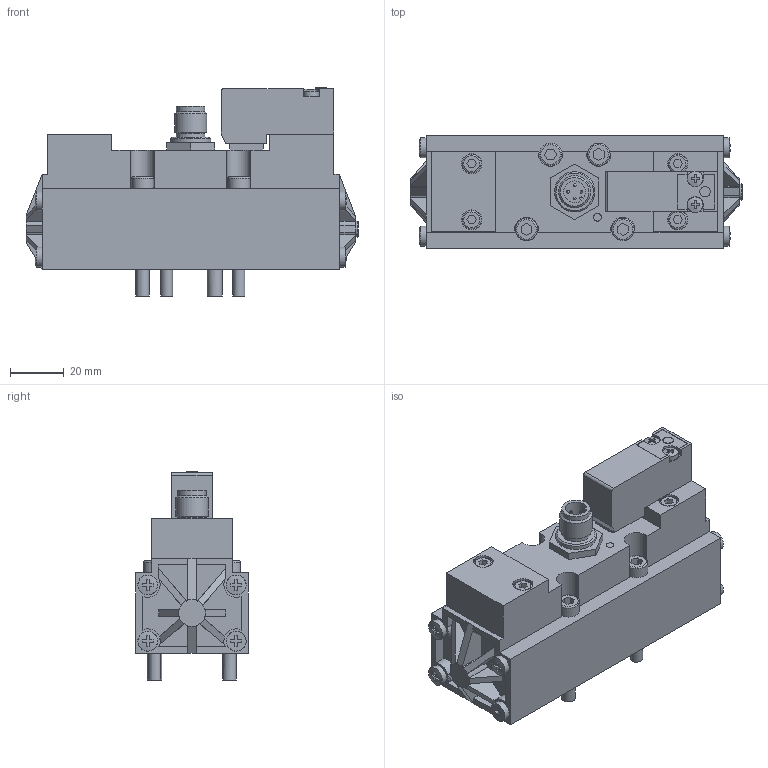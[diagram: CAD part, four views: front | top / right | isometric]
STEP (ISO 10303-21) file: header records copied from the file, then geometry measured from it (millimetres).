
FILE_DESCRIPTION((''),'2;1');
FILE_NAME('I:\Area Tecnica\Disegni\VARIE-3D\Componenti\ISO\ISO-M12\1111_52_3_9_12P.stp','2014-03-18T13:36:54',('valotma1'),(''),'Autodesk Inventor 2013','Autodesk Inventor 2013','');
FILE_SCHEMA(('AUTOMOTIVE_DESIGN { 1 0 10303 214 1 1 1 1 }'));
Length unit declared in the file: millimetre
Products named in the file (3): 1111_52_3_9_12P; 1111_52_3_9; M15P12P_
Assembly tree (2 placements, depth 2):
  1111_52_3_9_12P
    1111_52_3_9
    M15P12P_
Bounding box: 124 x 42 x 77.7 mm (x, y, z)
Volume: 205868 mm3; surface area: 35967.7 mm2
Topology: 3 solids, 7 shells, 483 faces, 1249 edges, 829 vertices
Faces by surface type: plane 374, cylinder 82, torus 8, cone 7, sphere 6, bspline 6
Full cylindrical faces by diameter (mm): 1 x4, 2 x5, 3 x2, 3.1 x2, 3.3 x4, 3.9 x1, 4.486 x1, 4.497 x1, 5 x1, 5.543 x1, 5.8 x2, 6 x1, 7 x4, 7.4 x8, 7.5 x4, 8.3 x4, 10.7 x2, 12 x1, 15 x1
Entity records: 14630 total; most frequent: CARTESIAN_POINT 2888, ORIENTED_EDGE 2290, DIRECTION 2234, EDGE_CURVE 1145, VECTOR 852, LINE 852, VERTEX_POINT 799, AXIS2_PLACEMENT_3D 691
